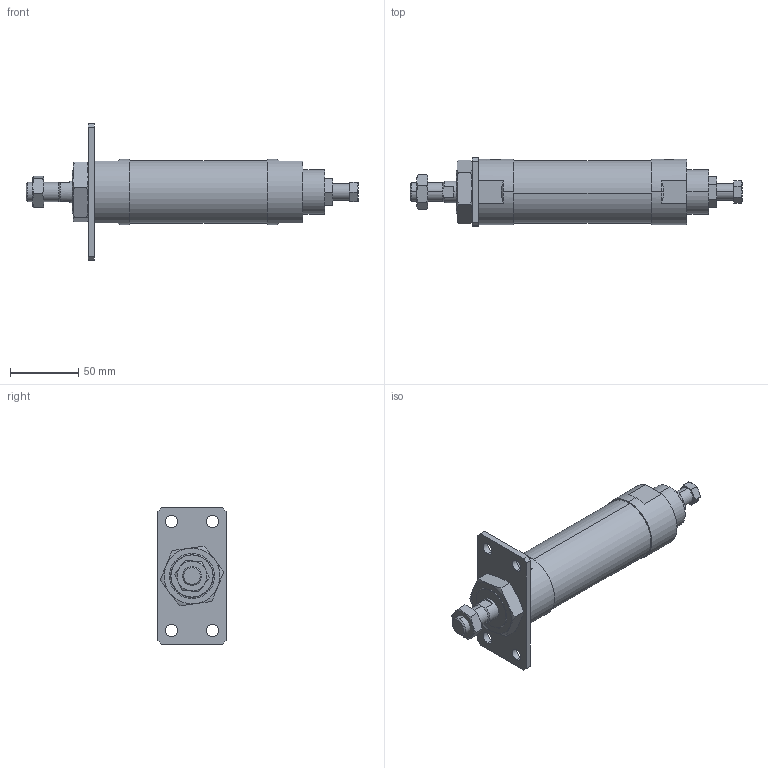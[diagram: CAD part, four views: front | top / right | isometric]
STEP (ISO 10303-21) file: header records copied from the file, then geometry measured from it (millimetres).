
FILE_DESCRIPTION (( 'STEP AP203' ), '1' );
FILE_NAME ('JGA2-40-50-A.STEP', '2016-04-20T05:09:15', ( '' ), ( '' ), 'SwSTEP 2.0', 'SolidWorks 2014', '' );
FILE_SCHEMA (( 'CONFIG_CONTROL_DESIGN' ));
Length unit declared in the file: millimetre
Products named in the file (7): JGA2-40A; M14x1.5-8mm; JGA2-40-50-A; J#2-40-A; M33x2-11mm; JGLH2-40B; 40-50
Assembly tree (6 placements, depth 2):
  JGA2-40-50-A
    JGLH2-40B
    40-50
    JGA2-40A
    M14x1.5-8mm
    M33x2-11mm
    J#2-40-A
Bounding box: 243.5 x 50 x 100 mm (x, y, z)
Volume: 322827.7 mm3; surface area: 55704.2 mm2
Topology: 6 solids, 6 shells, 144 faces, 328 edges, 200 vertices
Faces by surface type: plane 58, torus 36, cylinder 34, cone 16
Entity records: 5427 total; most frequent: CARTESIAN_POINT 1527, DIRECTION 660, ORIENTED_EDGE 648, EDGE_CURVE 324, AXIS2_PLACEMENT_3D 269, VERTEX_POINT 200, EDGE_LOOP 166, ADVANCED_FACE 144
